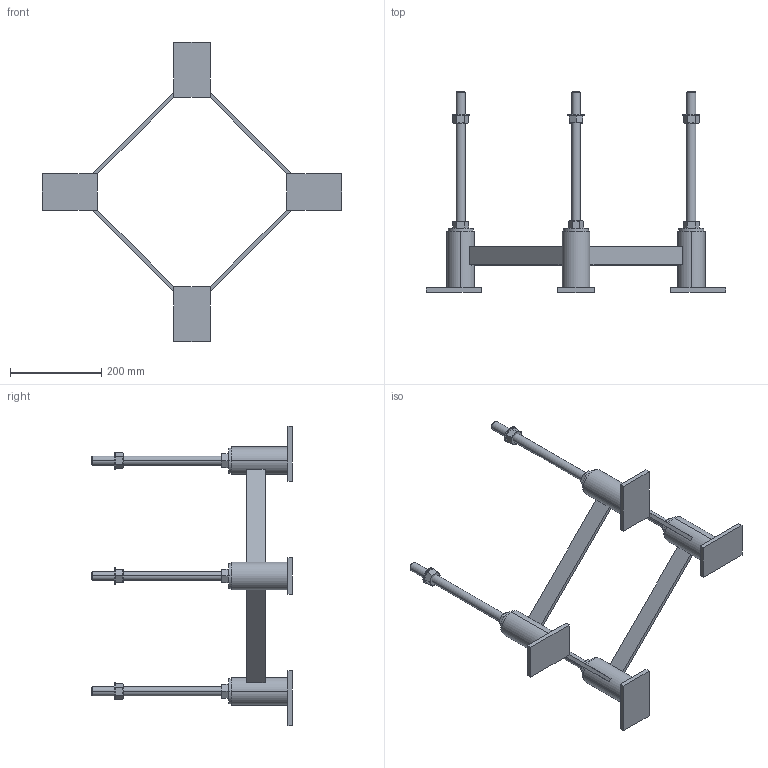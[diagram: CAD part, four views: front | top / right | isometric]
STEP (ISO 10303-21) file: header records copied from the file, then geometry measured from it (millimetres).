
FILE_DESCRIPTION((''),'2;1');
FILE_NAME('S001199_SW0001','2024-03-19T',('Lyritlocal'),(''),'PRO/ENGINEER BY PARAMETRIC TECHNOLOGY CORPORATION, 2016360','PRO/ENGINEER BY PARAMETRIC TECHNOLOGY CORPORATION, 2016360','');
FILE_SCHEMA(('CONFIG_CONTROL_DESIGN'));
Length unit declared in the file: millimetre
Products named in the file (1): S001199_SW0001
Bounding box: 655 x 440 x 655 mm (x, y, z)
Surface area: 444300.8 mm2 (no closed solid volume)
Topology: 0 solids, 36 shells, 196 faces, 504 edges, 336 vertices
Faces by surface type: plane 112, cone 52, cylinder 32
Entity records: 6554 total; most frequent: CARTESIAN_POINT 2188, DIRECTION 848, ORIENTED_EDGE 820, EDGE_CURVE 504, AXIS2_PLACEMENT_3D 340, VERTEX_POINT 336, EDGE_LOOP 196, FACE_OUTER_BOUND 196
